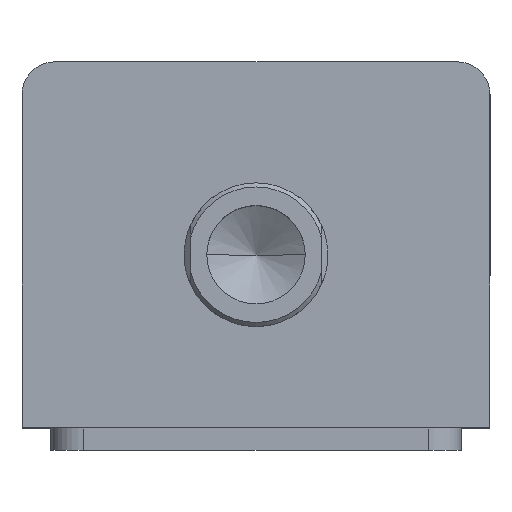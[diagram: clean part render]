
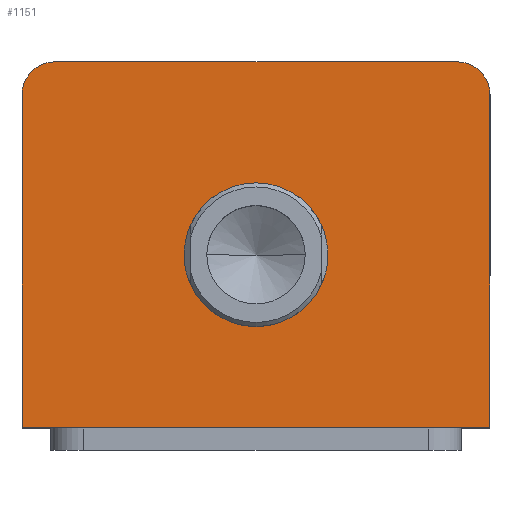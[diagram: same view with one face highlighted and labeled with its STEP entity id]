
A CAD part, top view. The second image highlights one B-rep face of the part: STEP entity #1151.
In plain terms, the highlighted planar face has unit normal (0, 0, 1).
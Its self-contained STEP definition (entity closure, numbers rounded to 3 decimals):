
#163 = CIRCLE ( 'NONE', #533, 17.5 ) ;
#332 = DIRECTION ( 'NONE',  ( 1., 0., 0. ) ) ;
#333 = DIRECTION ( 'NONE',  ( 0., 0., 1. ) ) ;
#338 = CARTESIAN_POINT ( 'NONE',  ( 0., 0., 137. ) ) ;
#341 = PLANE ( 'NONE',  #2292 ) ;
#533 = AXIS2_PLACEMENT_3D ( 'NONE', #777, #775, #875 ) ;
#538 = EDGE_CURVE ( 'NONE', #1967, #2068, #3382, .T. ) ;
#546 = EDGE_CURVE ( 'NONE', #2068, #2074, #3374, .T. ) ;
#591 = FACE_OUTER_BOUND ( 'NONE', #2106, .T. ) ;
#598 = FACE_BOUND ( 'NONE', #2104, .T. ) ;
#631 = AXIS2_PLACEMENT_3D ( 'NONE', #663, #662, #656 ) ;
#656 = DIRECTION ( 'NONE',  ( 1., 0., 0. ) ) ;
#662 = DIRECTION ( 'NONE',  ( 0., 0., 1. ) ) ;
#663 = CARTESIAN_POINT ( 'NONE',  ( 49., 36.5, 137. ) ) ;
#754 = DIRECTION ( 'NONE',  ( 0., 1., 0. ) ) ;
#757 = CARTESIAN_POINT ( 'NONE',  ( 57., 44.5, 137. ) ) ;
#775 = DIRECTION ( 'NONE',  ( 0., 0., 1. ) ) ;
#777 = CARTESIAN_POINT ( 'NONE',  ( 0., -2.5, 137. ) ) ;
#875 = DIRECTION ( 'NONE',  ( 1., 0., 0. ) ) ;
#983 = EDGE_CURVE ( 'NONE', #1969, #1971, #163, .T. ) ;
#1151 = ADVANCED_FACE ( 'NONE', ( #598, #591 ), #341, .T. ) ;
#1454 = CIRCLE ( 'NONE', #2395, 17.5 ) ;
#1465 = LINE ( 'NONE', #3166, #1468 ) ;
#1468 = VECTOR ( 'NONE', #3165, 1000. ) ;
#1469 = LINE ( 'NONE', #3161, #1472 ) ;
#1472 = VECTOR ( 'NONE', #3160, 1000. ) ;
#1508 = CIRCLE ( 'NONE', #2413, 8. ) ;
#1515 = LINE ( 'NONE', #2679, #1518 ) ;
#1518 = VECTOR ( 'NONE', #2675, 1000. ) ;
#1810 = EDGE_CURVE ( 'NONE', #1971, #1969, #1454, .T. ) ;
#1817 = EDGE_CURVE ( 'NONE', #1940, #1967, #1465, .T. ) ;
#1828 = EDGE_CURVE ( 'NONE', #2074, #2002, #1469, .T. ) ;
#1933 = VERTEX_POINT ( 'NONE', #2692 ) ;
#1940 = VERTEX_POINT ( 'NONE', #2681 ) ;
#1967 = VERTEX_POINT ( 'NONE', #2615 ) ;
#1969 = VERTEX_POINT ( 'NONE', #2610 ) ;
#1971 = VERTEX_POINT ( 'NONE', #2609 ) ;
#2002 = VERTEX_POINT ( 'NONE', #2821 ) ;
#2068 = VERTEX_POINT ( 'NONE', #2745 ) ;
#2074 = VERTEX_POINT ( 'NONE', #2737 ) ;
#2104 = EDGE_LOOP ( 'NONE', ( #3456, #3457 ) ) ;
#2106 = EDGE_LOOP ( 'NONE', ( #3458, #3459, #3460, #3461, #3462, #3463 ) ) ;
#2292 = AXIS2_PLACEMENT_3D ( 'NONE', #338, #333, #332 ) ;
#2395 = AXIS2_PLACEMENT_3D ( 'NONE', #3196, #3195, #3194 ) ;
#2413 = AXIS2_PLACEMENT_3D ( 'NONE', #2696, #2695, #2693 ) ;
#2609 = CARTESIAN_POINT ( 'NONE',  ( -17.5, -2.5, 137. ) ) ;
#2610 = CARTESIAN_POINT ( 'NONE',  ( 17.5, -2.5, 137. ) ) ;
#2615 = CARTESIAN_POINT ( 'NONE',  ( 57., -44.5, 137. ) ) ;
#2675 = DIRECTION ( 'NONE',  ( 0., -1., 0. ) ) ;
#2679 = CARTESIAN_POINT ( 'NONE',  ( -57., 44.5, 137. ) ) ;
#2681 = CARTESIAN_POINT ( 'NONE',  ( -57., -44.5, 137. ) ) ;
#2692 = CARTESIAN_POINT ( 'NONE',  ( -57., 36.5, 137. ) ) ;
#2693 = DIRECTION ( 'NONE',  ( 1., 0., 0. ) ) ;
#2695 = DIRECTION ( 'NONE',  ( 0., 0., 1. ) ) ;
#2696 = CARTESIAN_POINT ( 'NONE',  ( -49., 36.5, 137. ) ) ;
#2737 = CARTESIAN_POINT ( 'NONE',  ( 49., 44.5, 137. ) ) ;
#2745 = CARTESIAN_POINT ( 'NONE',  ( 57., 36.5, 137. ) ) ;
#2821 = CARTESIAN_POINT ( 'NONE',  ( -49., 44.5, 137. ) ) ;
#3122 = EDGE_CURVE ( 'NONE', #2002, #1933, #1508, .T. ) ;
#3126 = EDGE_CURVE ( 'NONE', #1933, #1940, #1515, .T. ) ;
#3160 = DIRECTION ( 'NONE',  ( -1., 0., 0. ) ) ;
#3161 = CARTESIAN_POINT ( 'NONE',  ( -57., 44.5, 137. ) ) ;
#3165 = DIRECTION ( 'NONE',  ( 1., 0., 0. ) ) ;
#3166 = CARTESIAN_POINT ( 'NONE',  ( -57., -44.5, 137. ) ) ;
#3194 = DIRECTION ( 'NONE',  ( 1., 0., 0. ) ) ;
#3195 = DIRECTION ( 'NONE',  ( 0., 0., 1. ) ) ;
#3196 = CARTESIAN_POINT ( 'NONE',  ( 0., -2.5, 137. ) ) ;
#3374 = CIRCLE ( 'NONE', #631, 8. ) ;
#3381 = VECTOR ( 'NONE', #754, 1000. ) ;
#3382 = LINE ( 'NONE', #757, #3381 ) ;
#3456 = ORIENTED_EDGE ( 'NONE', *, *, #983, .F. ) ;
#3457 = ORIENTED_EDGE ( 'NONE', *, *, #1810, .F. ) ;
#3458 = ORIENTED_EDGE ( 'NONE', *, *, #1828, .T. ) ;
#3459 = ORIENTED_EDGE ( 'NONE', *, *, #3122, .T. ) ;
#3460 = ORIENTED_EDGE ( 'NONE', *, *, #3126, .T. ) ;
#3461 = ORIENTED_EDGE ( 'NONE', *, *, #1817, .T. ) ;
#3462 = ORIENTED_EDGE ( 'NONE', *, *, #538, .T. ) ;
#3463 = ORIENTED_EDGE ( 'NONE', *, *, #546, .T. ) ;
